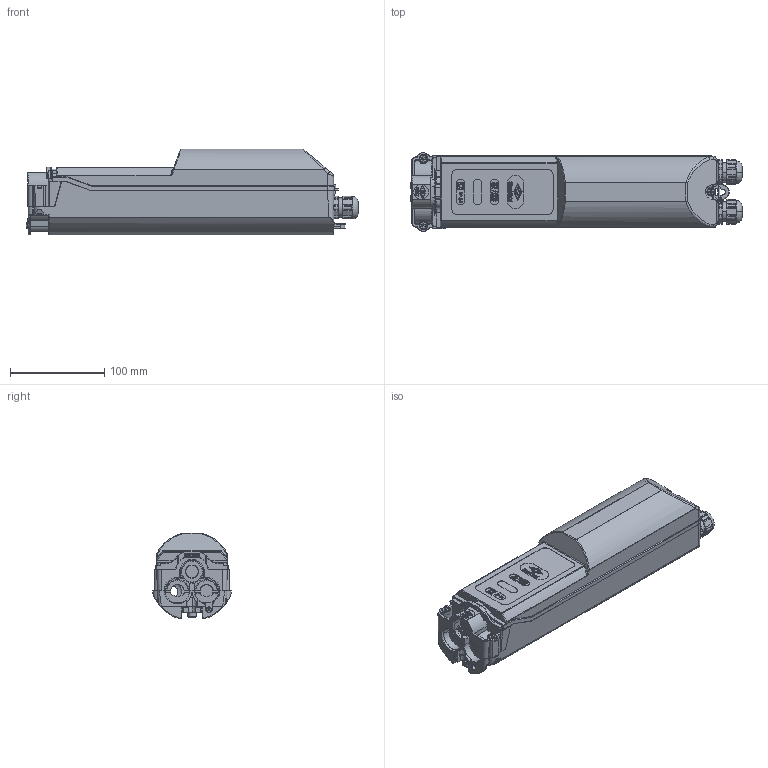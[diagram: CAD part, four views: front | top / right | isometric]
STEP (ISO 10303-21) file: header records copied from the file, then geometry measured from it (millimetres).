
FILE_DESCRIPTION (( 'STEP AP203' ), '1' );
FILE_NAME ('3D - HSW2537-M20 Außenkontur.STEP', '2019-06-28T09:25:21', ( '' ), ( '' ), 'SwSTEP 2.0', 'SolidWorks 2013', '' );
FILE_SCHEMA (( 'CONFIG_CONTROL_DESIGN' ));
Products named in the file (1): 3D - HSW2537-M20 Außenkontur
Bounding box: 353.13 x 83.5 x 91.11 mm (x, y, z)
Surface area: 131638.5 mm2 (no closed solid volume)
Topology: 0 solids, 27 shells, 1255 faces, 4525 edges, 3213 vertices
Faces by surface type: plane 570, cylinder 381, bspline 119, cone 93, torus 84, sphere 8
Entity records: 58434 total; most frequent: CARTESIAN_POINT 22243, ORIENTED_EDGE 7253, DIRECTION 6842, EDGE_CURVE 4515, VERTEX_POINT 3213, LINE 2574, VECTOR 2574, AXIS2_PLACEMENT_3D 2134
